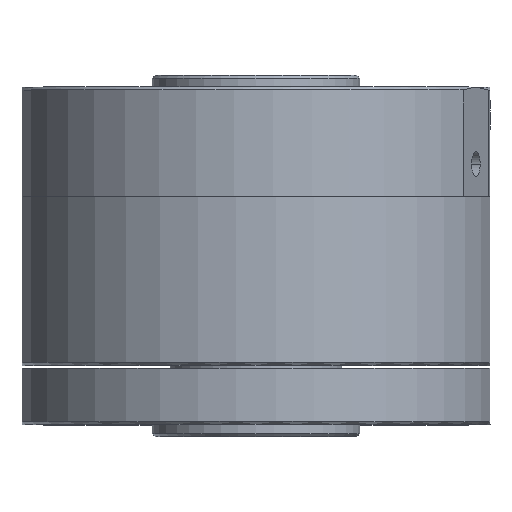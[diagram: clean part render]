
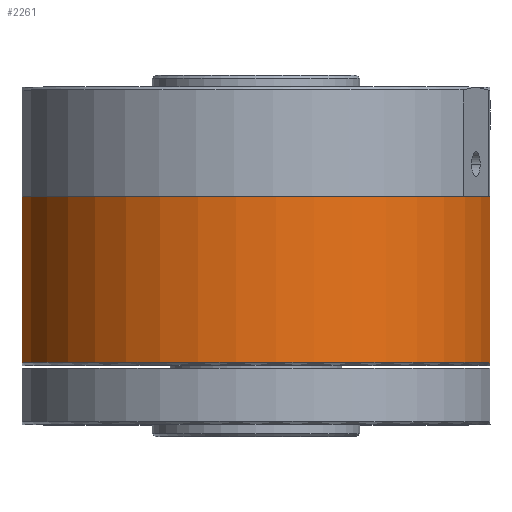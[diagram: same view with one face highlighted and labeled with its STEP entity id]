
A CAD part, top view. The second image highlights one B-rep face of the part: STEP entity #2261.
In plain terms, the highlighted cylindrical face has radius 40 mm (diameter 80 mm), a partial arc.
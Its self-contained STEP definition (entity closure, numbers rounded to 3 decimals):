
#15 = EDGE_LOOP ( 'NONE', ( #4695, #5127, #2230, #4303 ) ) ;
#154 = VECTOR ( 'NONE', #244, 1000. ) ;
#244 = DIRECTION ( 'NONE',  ( 0., -1., 0. ) ) ;
#583 = CARTESIAN_POINT ( 'NONE',  ( -39.5, -20.5, 6.305 ) ) ;
#935 = CARTESIAN_POINT ( 'NONE',  ( 0., -20.5, 0. ) ) ;
#953 = EDGE_CURVE ( 'NONE', #5304, #1633, #2447, .T. ) ;
#1099 = CIRCLE ( 'NONE', #2932, 40. ) ;
#1396 = AXIS2_PLACEMENT_3D ( 'NONE', #2150, #3138, #6194 ) ;
#1502 = VERTEX_POINT ( 'NONE', #583 ) ;
#1633 = VERTEX_POINT ( 'NONE', #5202 ) ;
#1801 = CARTESIAN_POINT ( 'NONE',  ( -39.5, -48.5, 6.305 ) ) ;
#2150 = CARTESIAN_POINT ( 'NONE',  ( 0., -1000., 0. ) ) ;
#2230 = ORIENTED_EDGE ( 'NONE', *, *, #6011, .T. ) ;
#2261 = ADVANCED_FACE ( 'NONE', ( #6298 ), #3234, .T. ) ;
#2447 = CIRCLE ( 'NONE', #6331, 40. ) ;
#2932 = AXIS2_PLACEMENT_3D ( 'NONE', #935, #5622, #6615 ) ;
#3138 = DIRECTION ( 'NONE',  ( 0., -1., 0. ) ) ;
#3234 = CYLINDRICAL_SURFACE ( 'NONE', #1396, 40. ) ;
#3271 = VECTOR ( 'NONE', #5268, 1000. ) ;
#3795 = VERTEX_POINT ( 'NONE', #6645 ) ;
#3803 = EDGE_CURVE ( 'NONE', #3795, #1502, #1099, .T. ) ;
#3922 = DIRECTION ( 'NONE',  ( -1., 0., 0. ) ) ;
#4260 = LINE ( 'NONE', #4690, #3271 ) ;
#4303 = ORIENTED_EDGE ( 'NONE', *, *, #3803, .T. ) ;
#4394 = CARTESIAN_POINT ( 'NONE',  ( -39.5, -1000., 6.305 ) ) ;
#4690 = CARTESIAN_POINT ( 'NONE',  ( 39.5, -1000., 6.305 ) ) ;
#4695 = ORIENTED_EDGE ( 'NONE', *, *, #4943, .T. ) ;
#4943 = EDGE_CURVE ( 'NONE', #1502, #5304, #6375, .T. ) ;
#5127 = ORIENTED_EDGE ( 'NONE', *, *, #953, .T. ) ;
#5202 = CARTESIAN_POINT ( 'NONE',  ( 39.5, -48.5, 6.305 ) ) ;
#5268 = DIRECTION ( 'NONE',  ( 0., 1., 0. ) ) ;
#5304 = VERTEX_POINT ( 'NONE', #1801 ) ;
#5622 = DIRECTION ( 'NONE',  ( 0., -1., 0. ) ) ;
#5875 = DIRECTION ( 'NONE',  ( 0., 1., 0. ) ) ;
#5939 = CARTESIAN_POINT ( 'NONE',  ( 0., -48.5, 0. ) ) ;
#6011 = EDGE_CURVE ( 'NONE', #1633, #3795, #4260, .T. ) ;
#6194 = DIRECTION ( 'NONE',  ( 1., 0., 0. ) ) ;
#6298 = FACE_OUTER_BOUND ( 'NONE', #15, .T. ) ;
#6331 = AXIS2_PLACEMENT_3D ( 'NONE', #5939, #5875, #3922 ) ;
#6375 = LINE ( 'NONE', #4394, #154 ) ;
#6615 = DIRECTION ( 'NONE',  ( 1., 0., 0. ) ) ;
#6645 = CARTESIAN_POINT ( 'NONE',  ( 39.5, -20.5, 6.305 ) ) ;
